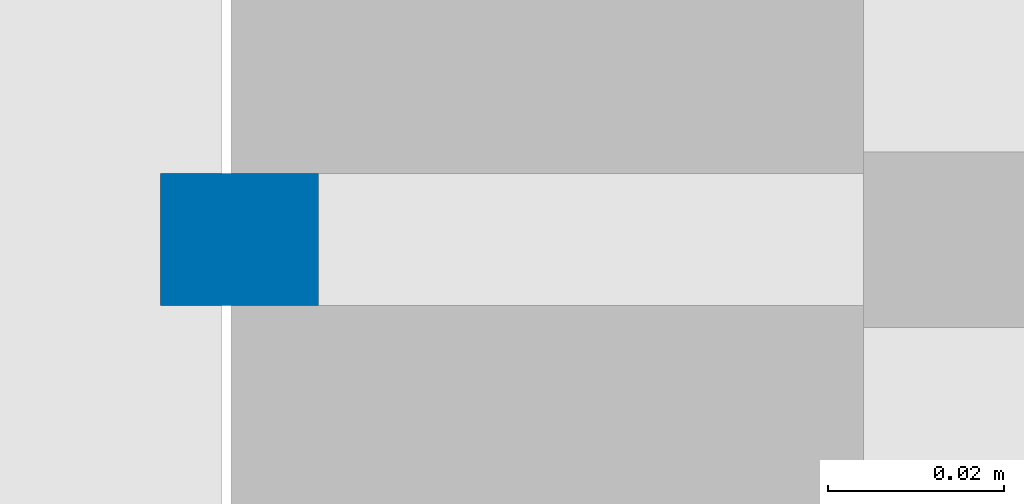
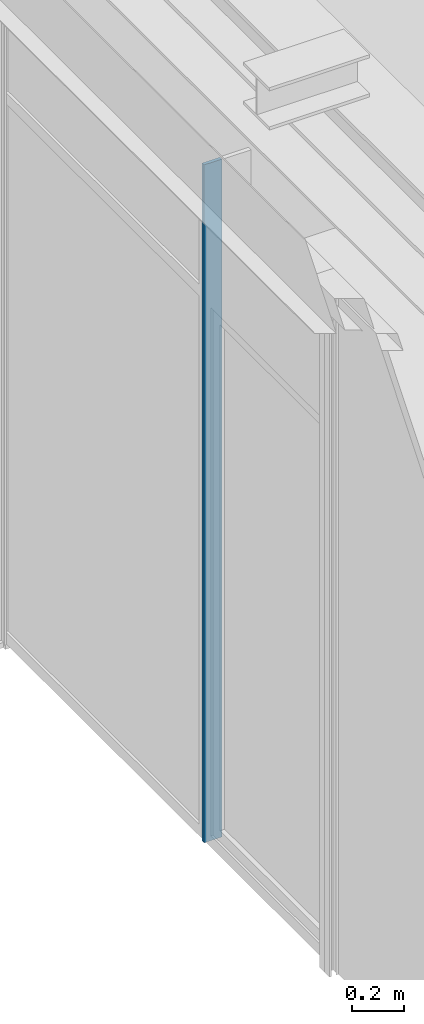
# One storey, part 16 of 347: 1 column.
"""IFC2X3 building model written with IfcOpenShell, lengths in millimetres."""

from ifc_helpers import new_model, entity, si_unit, converted_unit, derived_unit, money_unit, direction, frame, origin_with_axes, place, context, subcontext, project, spatial, faceted_brep, material, type_object, element, save


model = new_model("IFC2X3")

# Units and contexts
model_context = context("Model", 3, precision=0.01, world=origin_with_axes(), true_north=direction((0.0, 1.0)))
plan_context = context("Plan", 3, precision=0.01, world=origin_with_axes(), true_north=direction((0.0, 1.0)))
body_context = subcontext(model_context, "Body", "Model", "MODEL_VIEW")
ifc_project = project(units=[si_unit("LENGTHUNIT", "METRE", prefix="MILLI"), si_unit("AREAUNIT", "SQUARE_METRE"), si_unit("VOLUMEUNIT", "CUBIC_METRE"), converted_unit("PLANEANGLEUNIT", "DEGREE", entity("IfcPlaneAngleMeasure", 0.0174532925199), si_unit("PLANEANGLEUNIT", "RADIAN"), dimensions=[0, 0, 0, 0, 0, 0, 0]), money_unit("EUR"), converted_unit("TIMEUNIT", "Year", entity("IfcTimeMeasure", 31556926.0), si_unit("TIMEUNIT", "SECOND"), dimensions=[0, 0, 1, 0, 0, 0, 0]), si_unit("MASSUNIT", "GRAM", prefix="KILO"), si_unit("THERMODYNAMICTEMPERATUREUNIT", "DEGREE_CELSIUS"), si_unit("LUMINOUSINTENSITYUNIT", "LUMEN"), si_unit("ENERGYUNIT", "JOULE", prefix="MEGA"), derived_unit("THERMALCONDUCTANCEUNIT", [(si_unit("POWERUNIT", "WATT"), 1), (si_unit("LENGTHUNIT", "METRE"), -1), (si_unit("THERMODYNAMICTEMPERATUREUNIT", "KELVIN"), -1)]), derived_unit("SPECIFICHEATCAPACITYUNIT", [(si_unit("ENERGYUNIT", "JOULE"), 1), (si_unit("MASSUNIT", "GRAM", prefix="KILO"), -1), (si_unit("THERMODYNAMICTEMPERATUREUNIT", "KELVIN"), -1)]), derived_unit("MASSDENSITYUNIT", [(si_unit("MASSUNIT", "GRAM", prefix="KILO"), 1), (si_unit("VOLUMEUNIT", "CUBIC_METRE"), -1)])], contexts=[model_context, plan_context])

# Site, building, storey
site_placement = place(None, origin_with_axes())
site = spatial("IfcSite", under=ifc_project, at=site_placement, Name="Site", CompositionType="ELEMENT")
building_placement = place(site_placement, origin_with_axes())
building = spatial("IfcBuilding", under=site, at=building_placement, Name="Naam gebouw", CompositionType="ELEMENT")
storey_placement = place(building_placement, origin_with_axes())
storey = spatial("IfcBuildingStorey", under=building, at=storey_placement, Name="begane grond", CompositionType="ELEMENT", Elevation=0.0)

# Column
ifc_material = material(Name="Metaal - Aluminium beige")
column_type = type_object("IfcColumnType", Name="Metaal - Aluminium beige 15 x 80", PredefinedType="COLUMN")
column_placement = place(storey_placement, frame((24085.0, 32512.5, -10.0), z_axis=(0.0, 0.0, 1.0), x_axis=(0.0, -1.0, 0.0)))
element("IfcColumn", 1, at=column_placement, inside=storey, type_object=column_type, material=ifc_material, Name="28_kolom koker", ObjectType="COLUMN", context=body_context, shape_type="Brep", body=[
    faceted_brep([(-7.5, -40.0, 3210.0), (-7.5, -40.0, 0.0), (7.5, -40.0, 0.0), (7.5, -40.0, 3210.0), (-7.5, 40.0, 3210.0), (-7.5, 40.0, 0.0), (7.5, 40.0, 0.0), (7.5, 40.0, 3210.0)], [[[0, 1, 2, 3]], [[4, 5, 1, 0]], [[2, 1, 5, 6]], [[3, 2, 6, 7]], [[4, 0, 3, 7]], [[7, 6, 5, 4]]]),
])

save(model, "model.ifc")
